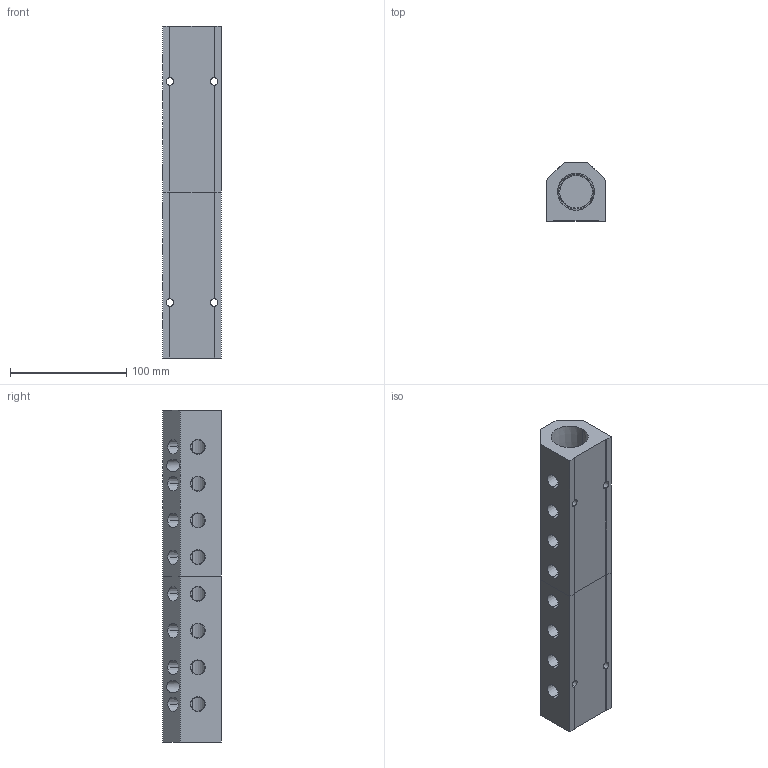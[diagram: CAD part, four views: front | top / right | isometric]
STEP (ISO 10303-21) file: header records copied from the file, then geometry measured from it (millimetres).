
FILE_DESCRIPTION (( 'STEP AP214' ), '1' );
FILE_NAME ('ALM8AB-N4N16-286RB.STEP', '2023-11-02T06:14:12', ( '' ), ( '' ), 'SwSTEP 2.0', 'SolidWorks 2020', '' );
FILE_SCHEMA (( 'AUTOMOTIVE_DESIGN' ));
Length unit declared in the file: millimetre
Products named in the file (1): ALM8AB-N4N16-286RB
Bounding box: 50.8 x 50.8 x 286 mm (x, y, z)
Volume: 451439.4 mm3; surface area: 94875.2 mm2
Topology: 2 solids, 2 shells, 378 faces, 1004 edges, 664 vertices
Faces by surface type: plane 231, bspline 83, cone 40, cylinder 24
Entity records: 21235 total; most frequent: CARTESIAN_POINT 8890, ORIENTED_EDGE 2008, DIRECTION 1446, EDGE_CURVE 1004, LINE 694, VECTOR 694, VERTEX_POINT 664, EDGE_LOOP 452
